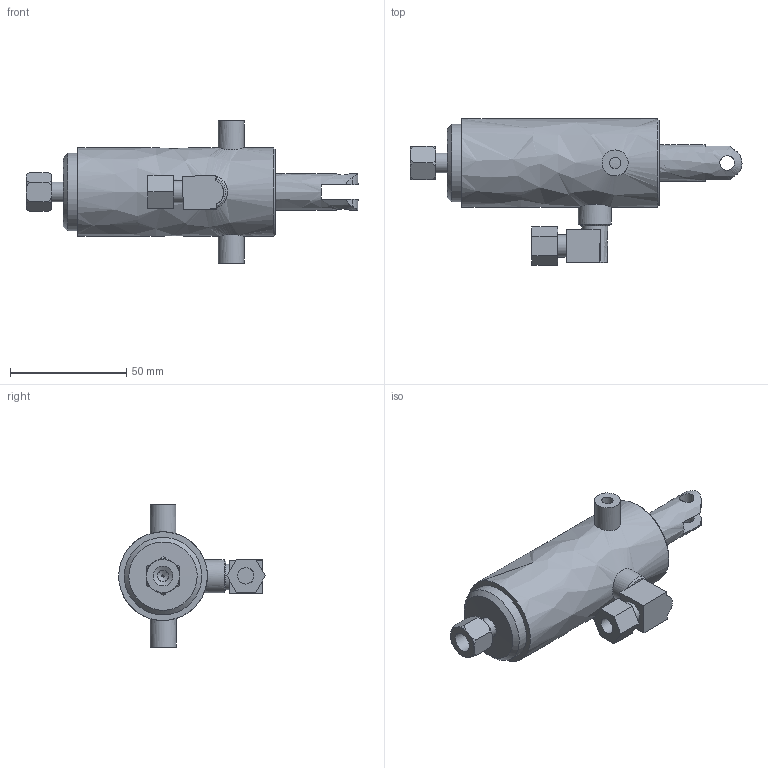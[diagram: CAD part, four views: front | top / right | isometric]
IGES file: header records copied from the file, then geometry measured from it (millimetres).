
Global section: file name: cy-201sp; native system: Autodesk RealDWG; preprocessor: Autodesk Translation Framework DWG producer (atf_dwg_producer); author: rtaylor; organization: unknown; date: 20151023.103911; units: inch
Bounding box: 142.71 x 63.01 x 61.1 mm (x, y, z)
Volume: 76036.7 mm3; surface area: 45160.1 mm2
Topology: 10 solids, 10 shells, 183 faces, 459 edges, 332 vertices
Faces by surface type: bspline 183
